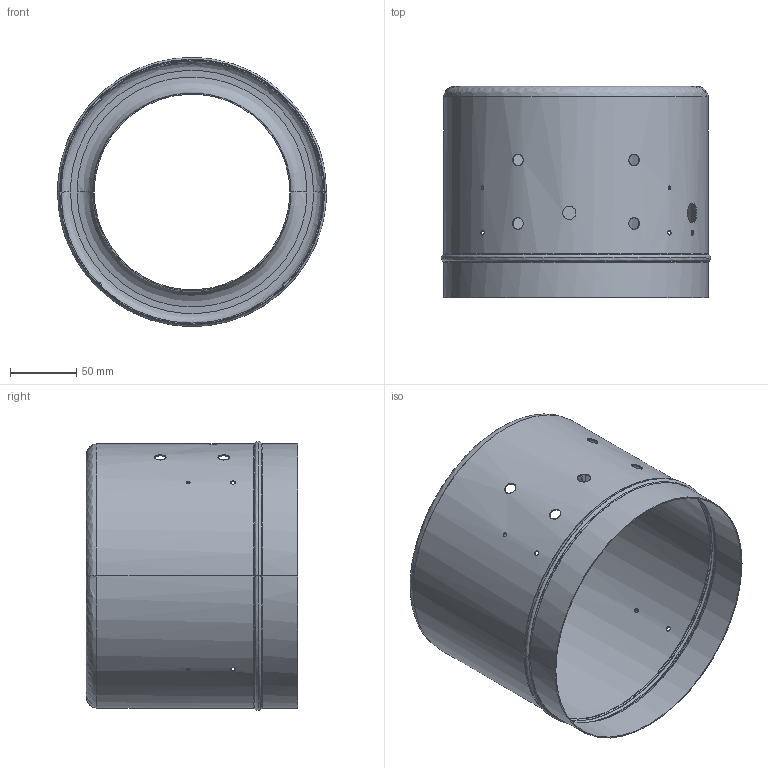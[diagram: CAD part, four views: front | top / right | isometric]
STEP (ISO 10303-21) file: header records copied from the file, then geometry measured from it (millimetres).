
FILE_DESCRIPTION(/* description */ (''),/* implementation_level */ '2;1');
FILE_NAME(/* name */ 'SE-A200',/* time_stamp */ '2024-01-15T14:50:15+08:00',/* author */ (''),/* organization */ (''),/* preprocessor_version */ 'ST-DEVELOPER v16.5',/* originating_system */ '',/* authorisation */ '');
FILE_SCHEMA (('CONFIG_CONTROL_DESIGN'));
Length unit declared in the file: millimetre
Products named in the file (1): Document
Bounding box: 203.8 x 160 x 203.74 mm (x, y, z)
Volume: 94191.3 mm3; surface area: 236559.7 mm2
Topology: 5 solids, 5 shells, 88 faces, 212 edges, 124 vertices
Faces by surface type: cylinder 42, bspline 36, plane 10
Entity records: 6242 total; most frequent: CARTESIAN_POINT 4826, ORIENTED_EDGE 400, EDGE_CURVE 200, VERTEX_POINT 124, EDGE_LOOP 122, B_SPLINE_CURVE_WITH_KNOTS 104, ADVANCED_FACE 88, FACE_OUTER_BOUND 88
